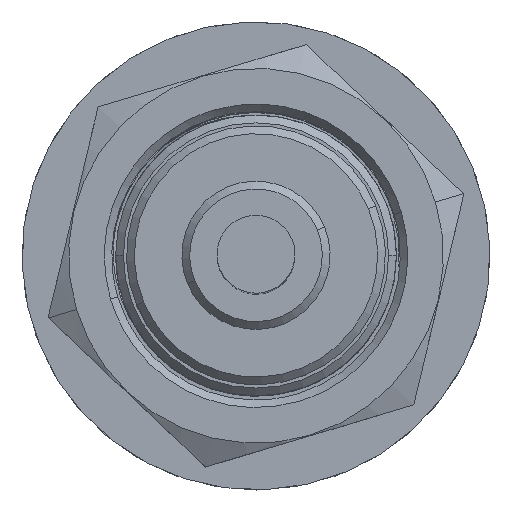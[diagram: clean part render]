
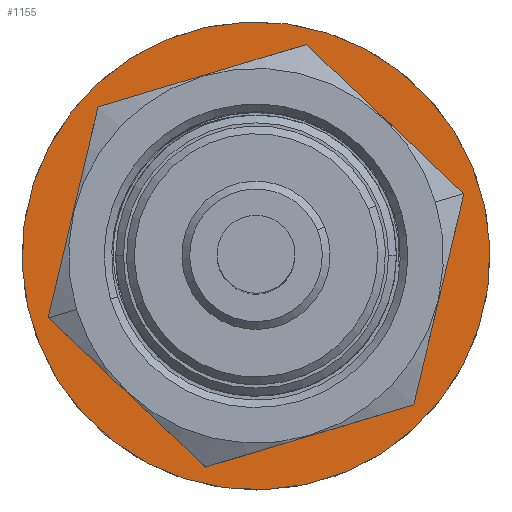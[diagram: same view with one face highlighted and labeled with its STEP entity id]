
A CAD part, top view. The second image highlights one B-rep face of the part: STEP entity #1155.
In plain terms, the highlighted planar face has unit normal (0, 0, 1) as drawn and (0, 1, 0) by its records, which use the part's own axes.
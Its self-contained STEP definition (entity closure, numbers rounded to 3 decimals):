
#76 = ORIENTED_EDGE ( 'NONE', *, *, #10340, .T. ) ;
#203 = VERTEX_POINT ( 'NONE', #12781 ) ;
#851 = FACE_BOUND ( 'NONE', #10726, .T. ) ;
#969 = DIRECTION ( 'NONE',  ( 0., 1., 0. ) ) ;
#1155 = ADVANCED_FACE ( 'NONE', ( #13313, #851 ), #9119, .T. ) ;
#1758 = AXIS2_PLACEMENT_3D ( 'NONE', #4494, #7593, #9542 ) ;
#2001 = CIRCLE ( 'NONE', #5662, 15. ) ;
#2027 = EDGE_LOOP ( 'NONE', ( #8628, #76 ) ) ;
#2865 = CARTESIAN_POINT ( 'NONE',  ( 0., 1., 0. ) ) ;
#2995 = DIRECTION ( 'NONE',  ( 0., 1., 0. ) ) ;
#3546 = AXIS2_PLACEMENT_3D ( 'NONE', #4325, #969, #5199 ) ;
#3878 = DIRECTION ( 'NONE',  ( 0., 0., 1. ) ) ;
#4196 = CIRCLE ( 'NONE', #10434, 15. ) ;
#4325 = CARTESIAN_POINT ( 'NONE',  ( 0., 1., 0. ) ) ;
#4494 = CARTESIAN_POINT ( 'NONE',  ( 0., 1., 0. ) ) ;
#5199 = DIRECTION ( 'NONE',  ( 0., 0., 1. ) ) ;
#5325 = EDGE_CURVE ( 'NONE', #11403, #203, #10357, .T. ) ;
#5662 = AXIS2_PLACEMENT_3D ( 'NONE', #8118, #2995, #12296 ) ;
#6270 = CARTESIAN_POINT ( 'NONE',  ( 0., 1., 0. ) ) ;
#6725 = CARTESIAN_POINT ( 'NONE',  ( 0., 1., -15. ) ) ;
#7593 = DIRECTION ( 'NONE',  ( 0., 1., 0. ) ) ;
#8118 = CARTESIAN_POINT ( 'NONE',  ( 0., 1., 0. ) ) ;
#8132 = EDGE_CURVE ( 'NONE', #11606, #12762, #2001, .T. ) ;
#8628 = ORIENTED_EDGE ( 'NONE', *, *, #8132, .T. ) ;
#9119 = PLANE ( 'NONE',  #12188 ) ;
#9542 = DIRECTION ( 'NONE',  ( 0., 0., 1. ) ) ;
#9863 = EDGE_CURVE ( 'NONE', #203, #11403, #11502, .T. ) ;
#10192 = DIRECTION ( 'NONE',  ( 0., 1., 0. ) ) ;
#10232 = DIRECTION ( 'NONE',  ( 0., 0., 1. ) ) ;
#10340 = EDGE_CURVE ( 'NONE', #12762, #11606, #4196, .T. ) ;
#10357 = CIRCLE ( 'NONE', #1758, 10. ) ;
#10434 = AXIS2_PLACEMENT_3D ( 'NONE', #6270, #12465, #10232 ) ;
#10726 = EDGE_LOOP ( 'NONE', ( #13117, #11057 ) ) ;
#10877 = CARTESIAN_POINT ( 'NONE',  ( 0., 1., 15. ) ) ;
#11057 = ORIENTED_EDGE ( 'NONE', *, *, #9863, .F. ) ;
#11403 = VERTEX_POINT ( 'NONE', #12616 ) ;
#11502 = CIRCLE ( 'NONE', #3546, 10. ) ;
#11606 = VERTEX_POINT ( 'NONE', #6725 ) ;
#12188 = AXIS2_PLACEMENT_3D ( 'NONE', #2865, #10192, #3878 ) ;
#12296 = DIRECTION ( 'NONE',  ( 0., 0., 1. ) ) ;
#12465 = DIRECTION ( 'NONE',  ( 0., 1., 0. ) ) ;
#12616 = CARTESIAN_POINT ( 'NONE',  ( 0., 1., -10. ) ) ;
#12762 = VERTEX_POINT ( 'NONE', #10877 ) ;
#12781 = CARTESIAN_POINT ( 'NONE',  ( 0., 1., 10. ) ) ;
#13117 = ORIENTED_EDGE ( 'NONE', *, *, #5325, .F. ) ;
#13313 = FACE_OUTER_BOUND ( 'NONE', #2027, .T. ) ;
